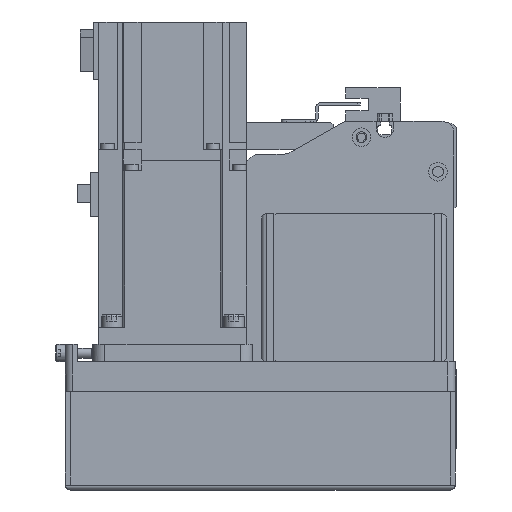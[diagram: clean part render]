
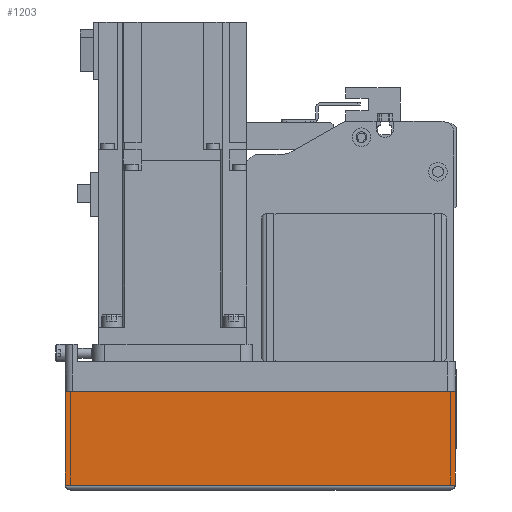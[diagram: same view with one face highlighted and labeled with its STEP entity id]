
A CAD part, left-side view. The second image highlights one B-rep face of the part: STEP entity #1203.
In plain terms, the highlighted planar face has unit normal (-1, 0, 0) as drawn and (0, -1, 0) by its records, which use the part's own axes.
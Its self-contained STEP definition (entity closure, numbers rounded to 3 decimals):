
#1203 = ADVANCED_FACE( '', ( #3280 ), #3281, .T. );
#3280 = FACE_OUTER_BOUND( '', #6536, .T. );
#3281 = PLANE( '', #6537 );
#6536 = EDGE_LOOP( '', ( #9925, #9926, #9927, #9928 ) );
#6537 = AXIS2_PLACEMENT_3D( '', #9929, #9930, #9931 );
#9925 = ORIENTED_EDGE( '', *, *, #18586, .F. );
#9926 = ORIENTED_EDGE( '', *, *, #18693, .F. );
#9927 = ORIENTED_EDGE( '', *, *, #18694, .T. );
#9928 = ORIENTED_EDGE( '', *, *, #18695, .T. );
#9929 = CARTESIAN_POINT( '', ( -158., -39., -12.1 ) );
#9930 = DIRECTION( '', ( 0., -1., 0. ) );
#9931 = DIRECTION( '', ( 0., 0., -1. ) );
#18586 = EDGE_CURVE( '', #22054, #22056, #22057, .T. );
#18693 = EDGE_CURVE( '', #22249, #22054, #22250, .T. );
#18694 = EDGE_CURVE( '', #22249, #22251, #22252, .T. );
#18695 = EDGE_CURVE( '', #22251, #22056, #22253, .T. );
#22054 = VERTEX_POINT( '', #27190 );
#22056 = VERTEX_POINT( '', #27193 );
#22057 = LINE( '', #27194, #27195 );
#22249 = VERTEX_POINT( '', #27461 );
#22250 = LINE( '', #27462, #27463 );
#22251 = VERTEX_POINT( '', #27464 );
#22252 = LINE( '', #27465, #27466 );
#22253 = LINE( '', #27467, #27468 );
#27190 = CARTESIAN_POINT( '', ( 0., -39., -12.1 ) );
#27193 = CARTESIAN_POINT( '', ( 0., -39., -50. ) );
#27194 = CARTESIAN_POINT( '', ( 0., -39., -12.1 ) );
#27195 = VECTOR( '', #34642, 1000. );
#27461 = CARTESIAN_POINT( '', ( -158., -39., -12.1 ) );
#27462 = CARTESIAN_POINT( '', ( -158., -39., -12.1 ) );
#27463 = VECTOR( '', #34756, 1000. );
#27464 = CARTESIAN_POINT( '', ( -158., -39., -50. ) );
#27465 = CARTESIAN_POINT( '', ( -158., -39., -12.1 ) );
#27466 = VECTOR( '', #34757, 1000. );
#27467 = CARTESIAN_POINT( '', ( -158., -39., -50. ) );
#27468 = VECTOR( '', #34758, 1000. );
#34642 = DIRECTION( '', ( 0., 0., -1. ) );
#34756 = DIRECTION( '', ( 1., 0., 0. ) );
#34757 = DIRECTION( '', ( 0., 0., -1. ) );
#34758 = DIRECTION( '', ( 1., 0., 0. ) );
